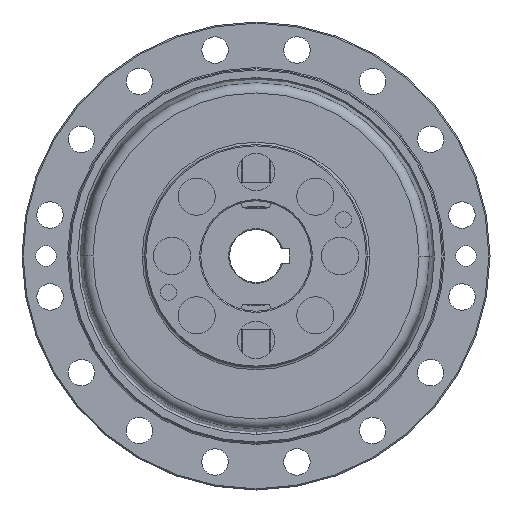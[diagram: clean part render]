
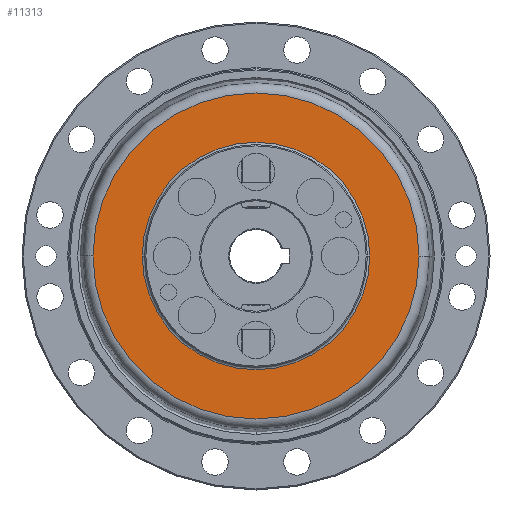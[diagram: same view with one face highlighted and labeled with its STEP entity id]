
A CAD part, left-side view. The second image highlights one B-rep face of the part: STEP entity #11313.
In plain terms, the highlighted planar face has unit normal (-1, 0, 0).
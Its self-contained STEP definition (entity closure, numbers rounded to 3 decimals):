
#239 = DIRECTION ( 'NONE',  ( 0., -1., 0. ) ) ;
#942 = CIRCLE ( 'NONE', #3376, 67.928 ) ;
#1350 = CIRCLE ( 'NONE', #17131, 47.4 ) ;
#1361 = EDGE_CURVE ( 'NONE', #16038, #10474, #942, .T. ) ;
#1653 = VERTEX_POINT ( 'NONE', #3473 ) ;
#2488 = ORIENTED_EDGE ( 'NONE', *, *, #9860, .T. ) ;
#3048 = DIRECTION ( 'NONE',  ( 1., 0., 0. ) ) ;
#3080 = CARTESIAN_POINT ( 'NONE',  ( 4.927, -67.928, 0. ) ) ;
#3376 = AXIS2_PLACEMENT_3D ( 'NONE', #6679, #18307, #239 ) ;
#3473 = CARTESIAN_POINT ( 'NONE',  ( 4.927, -47.4, 0. ) ) ;
#4037 = EDGE_CURVE ( 'NONE', #1653, #20455, #1350, .T. ) ;
#4828 = DIRECTION ( 'NONE',  ( 0., 1., 0. ) ) ;
#5197 = ORIENTED_EDGE ( 'NONE', *, *, #1361, .T. ) ;
#5730 = ORIENTED_EDGE ( 'NONE', *, *, #4037, .T. ) ;
#6539 = DIRECTION ( 'NONE',  ( 1., 0., 0. ) ) ;
#6679 = CARTESIAN_POINT ( 'NONE',  ( 4.927, 0., 0. ) ) ;
#6814 = AXIS2_PLACEMENT_3D ( 'NONE', #16087, #6539, #17693 ) ;
#9446 = CARTESIAN_POINT ( 'NONE',  ( 4.927, 0., 0. ) ) ;
#9679 = PLANE ( 'NONE',  #19670 ) ;
#9860 = EDGE_CURVE ( 'NONE', #20455, #1653, #19088, .T. ) ;
#9969 = EDGE_LOOP ( 'NONE', ( #5197, #17485 ) ) ;
#9981 = CARTESIAN_POINT ( 'NONE',  ( 4.927, 67.928, 0. ) ) ;
#10474 = VERTEX_POINT ( 'NONE', #9981 ) ;
#11088 = DIRECTION ( 'NONE',  ( 0., -1., 0. ) ) ;
#11313 = ADVANCED_FACE ( 'NONE', ( #16834, #12184 ), #9679, .F. ) ;
#12184 = FACE_OUTER_BOUND ( 'NONE', #9969, .T. ) ;
#13040 = EDGE_CURVE ( 'NONE', #10474, #16038, #17268, .T. ) ;
#13228 = AXIS2_PLACEMENT_3D ( 'NONE', #9446, #20446, #11088 ) ;
#13734 = CARTESIAN_POINT ( 'NONE',  ( 4.927, 0., 0. ) ) ;
#14538 = DIRECTION ( 'NONE',  ( 1., 0., 0. ) ) ;
#16038 = VERTEX_POINT ( 'NONE', #3080 ) ;
#16087 = CARTESIAN_POINT ( 'NONE',  ( 4.927, 0., 0. ) ) ;
#16834 = FACE_BOUND ( 'NONE', #19127, .T. ) ;
#17131 = AXIS2_PLACEMENT_3D ( 'NONE', #13734, #3048, #17904 ) ;
#17268 = CIRCLE ( 'NONE', #13228, 67.928 ) ;
#17391 = CARTESIAN_POINT ( 'NONE',  ( 4.927, 47.4, 0. ) ) ;
#17485 = ORIENTED_EDGE ( 'NONE', *, *, #13040, .T. ) ;
#17693 = DIRECTION ( 'NONE',  ( 0., 1., 0. ) ) ;
#17904 = DIRECTION ( 'NONE',  ( 0., 1., 0. ) ) ;
#18307 = DIRECTION ( 'NONE',  ( -1., 0., 0. ) ) ;
#19088 = CIRCLE ( 'NONE', #6814, 47.4 ) ;
#19127 = EDGE_LOOP ( 'NONE', ( #2488, #5730 ) ) ;
#19142 = CARTESIAN_POINT ( 'NONE',  ( 4.927, 67.928, 0. ) ) ;
#19670 = AXIS2_PLACEMENT_3D ( 'NONE', #19142, #14538, #4828 ) ;
#20446 = DIRECTION ( 'NONE',  ( -1., 0., 0. ) ) ;
#20455 = VERTEX_POINT ( 'NONE', #17391 ) ;
